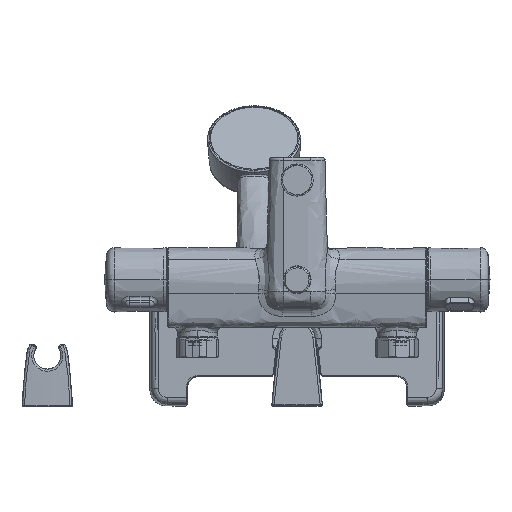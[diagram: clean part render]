
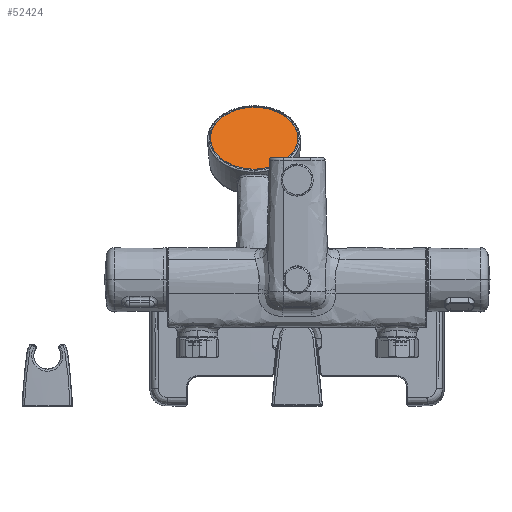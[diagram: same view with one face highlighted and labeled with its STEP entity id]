
A CAD part, front view. The second image highlights one B-rep face of the part: STEP entity #52424.
In plain terms, the highlighted planar face has unit normal (0, -0.71, 0.704).
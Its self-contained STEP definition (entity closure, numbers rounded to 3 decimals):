
#2710 = DIRECTION ( 'NONE',  ( 0., -0.71, 0.704 ) ) ;
#7499 = VERTEX_POINT ( 'NONE', #11212 ) ;
#11212 = CARTESIAN_POINT ( 'NONE',  ( 87.946, 801.235, 459.589 ) ) ;
#14271 = DIRECTION ( 'NONE',  ( 0., 0.71, -0.704 ) ) ;
#14950 = EDGE_CURVE ( 'NONE', #55550, #7499, #29325, .T. ) ;
#16593 = AXIS2_PLACEMENT_3D ( 'NONE', #20195, #55760, #25297 ) ;
#17164 = AXIS2_PLACEMENT_3D ( 'NONE', #33232, #2710, #38385 ) ;
#18936 = CARTESIAN_POINT ( 'NONE',  ( 92.169, 729.258, 386.984 ) ) ;
#20195 = CARTESIAN_POINT ( 'NONE',  ( 87.946, 778.178, 436.331 ) ) ;
#22868 = EDGE_CURVE ( 'NONE', #7499, #55550, #49819, .T. ) ;
#25297 = DIRECTION ( 'NONE',  ( 0., 0.704, 0.71 ) ) ;
#27564 = EDGE_LOOP ( 'NONE', ( #62806, #45268 ) ) ;
#29325 = CIRCLE ( 'NONE', #16593, 32.75 ) ;
#33232 = CARTESIAN_POINT ( 'NONE',  ( 87.946, 778.178, 436.331 ) ) ;
#38385 = DIRECTION ( 'NONE',  ( 0., 0.704, 0.71 ) ) ;
#39649 = PLANE ( 'NONE',  #44305 ) ;
#44305 = AXIS2_PLACEMENT_3D ( 'NONE', #18936, #14271, #49864 ) ;
#45268 = ORIENTED_EDGE ( 'NONE', *, *, #22868, .T. ) ;
#46126 = CARTESIAN_POINT ( 'NONE',  ( 87.946, 755.121, 413.073 ) ) ;
#49819 = CIRCLE ( 'NONE', #17164, 32.75 ) ;
#49864 = DIRECTION ( 'NONE',  ( 0., 0.704, 0.71 ) ) ;
#52424 = ADVANCED_FACE ( 'NONE', ( #62933 ), #39649, .F. ) ;
#55550 = VERTEX_POINT ( 'NONE', #46126 ) ;
#55760 = DIRECTION ( 'NONE',  ( 0., -0.71, 0.704 ) ) ;
#62806 = ORIENTED_EDGE ( 'NONE', *, *, #14950, .T. ) ;
#62933 = FACE_OUTER_BOUND ( 'NONE', #27564, .T. ) ;
